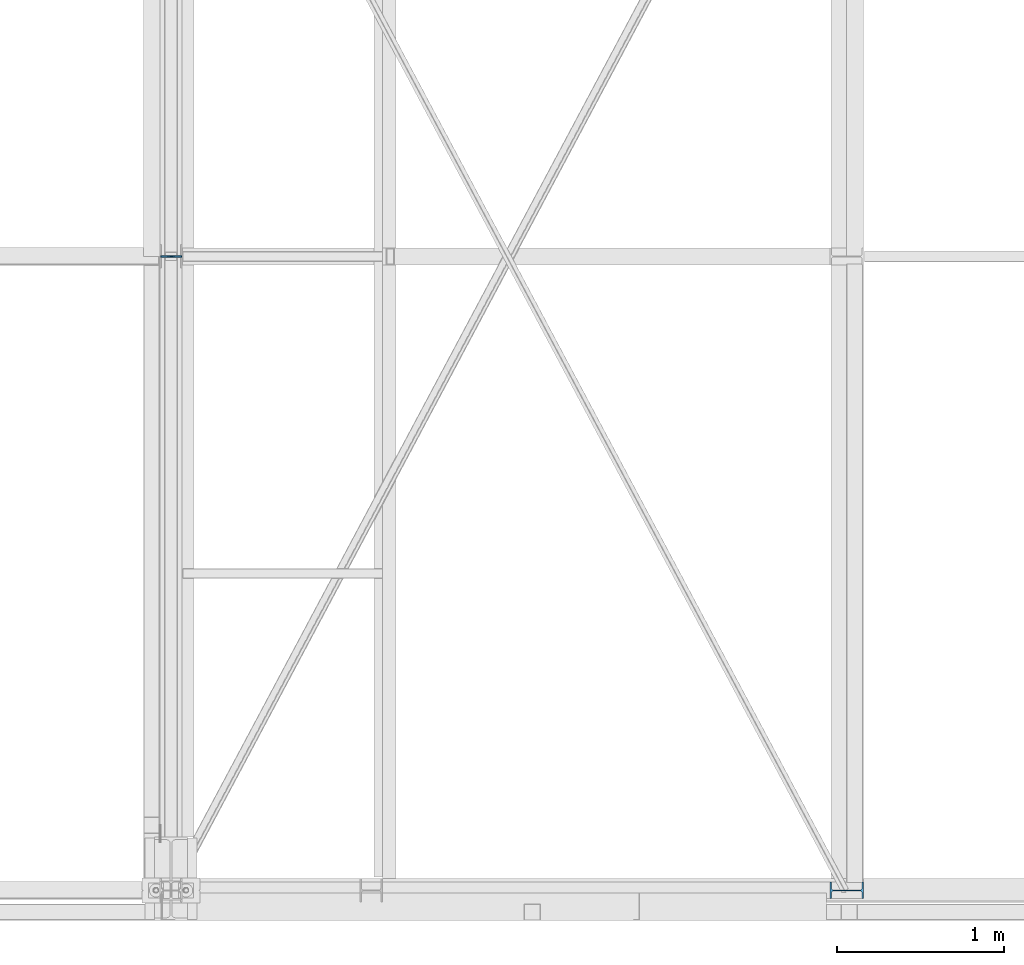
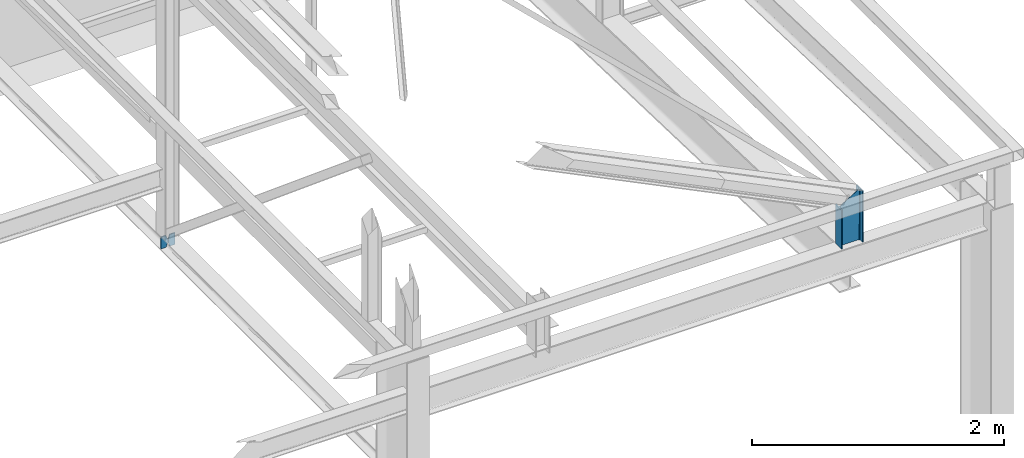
# One storey, part 88 of 123: 3 discrete accessories, 2 elements without a shape of their own.
"""IFC2X3 building model written with IfcOpenShell, lengths in millimetres."""

from ifc_helpers import new_model, si_unit, frame, origin_with_axes, origin_2d_with_axis, place, context, subcontext, project, spatial, polyline, i_section, outline, extrude, clip, halfspace, material, type_object, element, aggregate, save


model = new_model("IFC2X3")

# Units and contexts
model_context = context("Model", 3, precision=1e-05, world=origin_with_axes())
body_context = subcontext(model_context, "Body", "Model", "MODEL_VIEW")
ifc_project = project(units=[si_unit("LENGTHUNIT", "METRE", prefix="MILLI"), si_unit("AREAUNIT", "SQUARE_METRE"), si_unit("VOLUMEUNIT", "CUBIC_METRE"), si_unit("MASSUNIT", "GRAM", prefix="KILO"), si_unit("TIMEUNIT", "SECOND"), si_unit("PLANEANGLEUNIT", "RADIAN"), si_unit("SOLIDANGLEUNIT", "STERADIAN"), si_unit("THERMODYNAMICTEMPERATUREUNIT", "DEGREE_CELSIUS"), si_unit("LUMINOUSINTENSITYUNIT", "LUMEN")], contexts=[model_context])

# Site, building, storey
site_placement = place(None, origin_with_axes())
site = spatial("IfcSite", under=ifc_project, at=site_placement, Name="Undefined", CompositionType="ELEMENT")
building_placement = place(site_placement, origin_with_axes())
building = spatial("IfcBuilding", under=site, at=building_placement, Name="Undefined", CompositionType="ELEMENT")
storey_placement = place(building_placement, origin_with_axes())
storey = spatial("IfcBuildingStorey", under=building, at=storey_placement, Name="Undefined", CompositionType="ELEMENT", Elevation=0.0)

# Assembly, discrete accessories
assembly_1_placement = place(storey_placement, origin_with_axes())
assembly_1 = element("IfcElementAssembly", 1, at=assembly_1_placement, inside=storey, Name="Steel Assembly", AssemblyPlace="NOTDEFINED", PredefinedType="RIGID_FRAME")
ifc_material_1 = material(Name="STEEL/S235-E24")
discrete_accessory_type_1 = type_object("IfcDiscreteAccessoryType", Name="RAIDISSEUR")
discrete_accessory_1_placement = place(assembly_1_placement, frame((34342.7499999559, 3800.00552177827, 7126.5), z_axis=(0.0, 1.0, 0.0), x_axis=(-1.0, 0.0, 0.0)))
discrete_accessory_1 = element("IfcDiscreteAccessory", 2, at=discrete_accessory_1_placement, type_object=discrete_accessory_type_1, material=ifc_material_1, Name="RAIDISSEUR", ObjectType="TOLE10*60", context=body_context, shape_type="SweptSolid", body=[
    extrude(outline(polyline([(0.0, 0.0), (45.0, 0.0), (60.0, 40.0), (60.0, 74.0), (45.0, 114.0), (0.0, 114.0), (0.0, 0.0)])), frame((0.0, 0.0, -5.0), z_axis=(0.0, 0.0, 1.0), x_axis=(1.0, 0.0, 0.0)), (0.0, 0.0, 1.0), 10.0),
])
discrete_accessory_2_placement = place(assembly_1_placement, frame((34277.2499999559, 3800.00552177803, 7126.5), z_axis=(0.0, 1.0, 0.0), x_axis=(-1.0, 0.0, 0.0)))
discrete_accessory_2 = element("IfcDiscreteAccessory", 3, at=discrete_accessory_2_placement, type_object=discrete_accessory_type_1, material=ifc_material_1, Name="RAIDISSEUR", ObjectType="TOLE10*60", context=body_context, shape_type="SweptSolid", body=[
    extrude(outline(polyline([(0.0, 40.0), (15.0, 0.0), (60.0, 0.0), (60.0, 114.0), (15.0, 114.0), (0.0, 74.0), (0.0, 40.0)])), frame((0.0, 0.0, -5.0), z_axis=(0.0, 0.0, 1.0), x_axis=(1.0, 0.0, 0.0)), (0.0, 0.0, 1.0), 10.0),
])
aggregate(assembly_1, [discrete_accessory_1, discrete_accessory_2])

# Assembly, discrete accessory
assembly_2_placement = place(storey_placement, origin_with_axes())
assembly_2 = element("IfcElementAssembly", 4, at=assembly_2_placement, inside=storey, Name="Steel Assembly", AssemblyPlace="NOTDEFINED", PredefinedType="RIGID_FRAME")
ifc_material_2 = material(Name="STEEL/S275-E28")
discrete_accessory_type_2 = type_object("IfcDiscreteAccessoryType", Name="TRAVERSE SHED")
discrete_accessory_3_placement = place(assembly_2_placement, frame((38330.0, 0.0, 8050.00187326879), z_axis=(0.0, 0.0, 1.0), x_axis=(-1.0, 0.0, 0.0)))
discrete_accessory_3 = element("IfcDiscreteAccessory", 5, at=discrete_accessory_3_placement, type_object=discrete_accessory_type_2, material=ifc_material_2, Name="TRAVERSE SHED", ObjectType="IPE200", context=body_context, shape_type="Clipping", body=[
    clip(extrude(i_section(OverallWidth=100.0, OverallDepth=200.0, WebThickness=5.599999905, FlangeThickness=8.5, FilletRadius=12.0, at=origin_2d_with_axis()), frame((0.0, 0.0, 500.62079097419), z_axis=(0.0, 0.0, -1.0), x_axis=(0.0, 1.0, 0.0)), (0.0, 0.0, 1.0), 500.6), halfspace(frame((100.0, 0.0, 375.46503082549), z_axis=(-0.528573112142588, 0.0, -0.848887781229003), x_axis=(0.0, 1.0, 0.0)), True)),
])
aggregate(assembly_2, [discrete_accessory_3])

save(model, "model.ifc")
